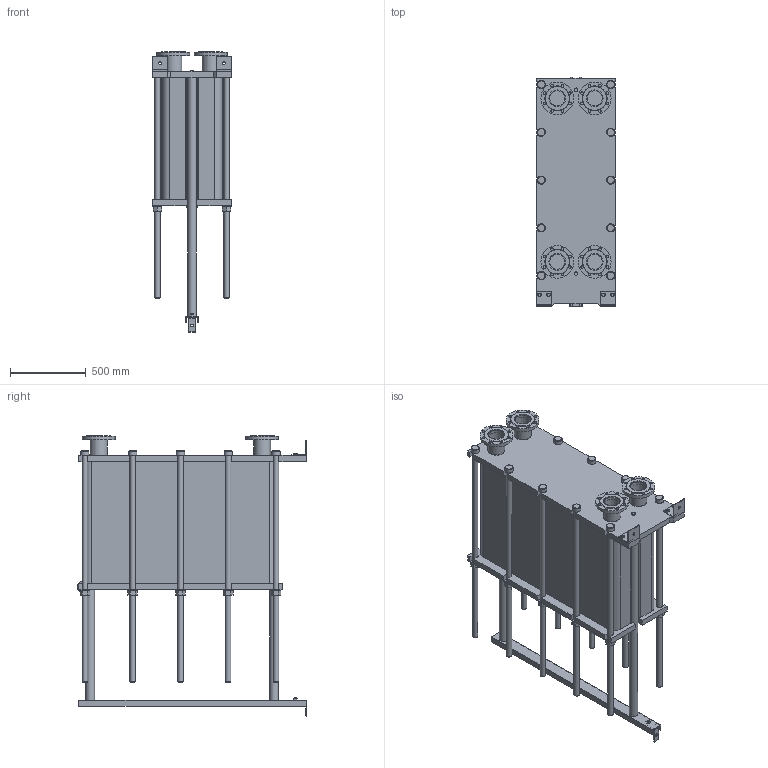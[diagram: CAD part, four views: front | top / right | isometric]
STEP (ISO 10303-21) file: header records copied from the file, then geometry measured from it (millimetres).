
FILE_DESCRIPTION(/* description */ (''),/* implementation_level */ '2;1');
FILE_NAME(/* name */ 'C:\Users\zhuro\Desktop\ENCO\TO\ЭН-04\ЭН-0,5-04-233-1.stp',/* time_stamp */ '2022-06-06T11:05:51+03:00',/* author */ ('zhuro'),/* organization */ (''),/* preprocessor_version */ 'ST-DEVELOPER v18.1',/* originating_system */ 'Autodesk Inventor 2022',/* authorisation */ '');
FILE_SCHEMA (('AUTOMOTIVE_DESIGN { 1 0 10303 214 3 1 1 }'));
Length unit declared in the file: millimetre
Products named in the file (1): ЭН-0,5-04-233-1
Bounding box: 520 x 1510 x 1846.5 mm (x, y, z)
Volume: 480094366.1 mm3; surface area: 11279944.5 mm2
Topology: 45 solids, 45 shells, 668 faces, 1611 edges, 1048 vertices
Faces by surface type: plane 457, cylinder 166, cone 39, torus 6
Full cylindrical faces by diameter (mm): 8 x4, 10 x2, 16 x8, 18 x35, 36 x25, 40 x2, 42 x1, 45 x4, 54 x10, 57 x2, 60 x10, 68 x2, 100 x4, 110 x8, 215 x4
Entity records: 23607 total; most frequent: CARTESIAN_POINT 7348, DIRECTION 3371, ORIENTED_EDGE 3142, EDGE_CURVE 1571, AXIS2_PLACEMENT_3D 1199, VERTEX_POINT 1044, LINE 973, VECTOR 973
